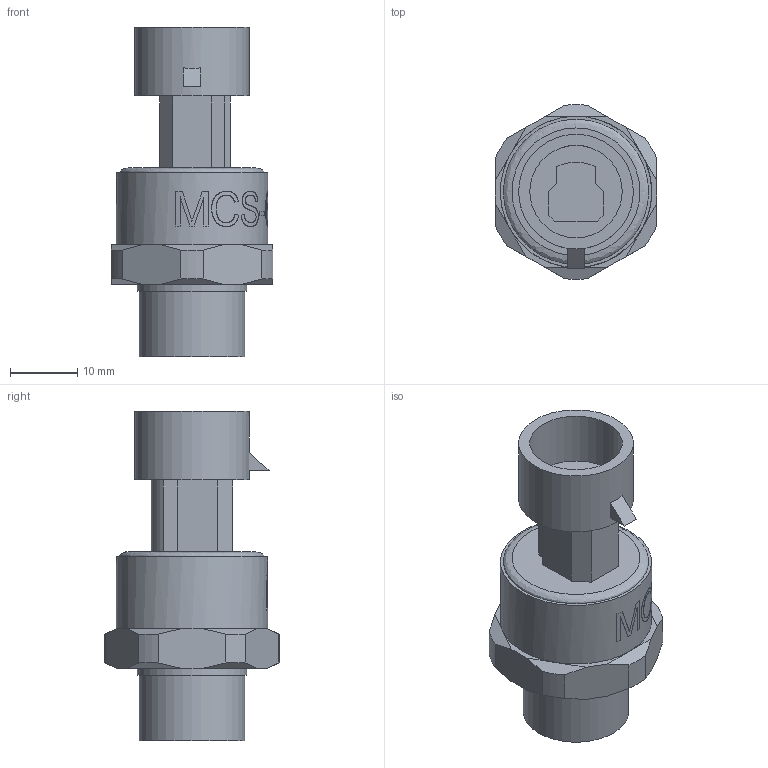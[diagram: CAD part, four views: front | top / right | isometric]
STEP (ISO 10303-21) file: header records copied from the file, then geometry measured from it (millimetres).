
FILE_DESCRIPTION(/* description */ (''),/* implementation_level */ '2;1');
FILE_NAME(/* name */ 'R:\Temp\J. Narvaez\IAN DRAWINGS\002 - Sensors\013 - MCS Pressure Transducers\MCS-667B.stp',/* time_stamp */ '2022-11-14T09:55:36-05:00',/* author */ ('mjeter'),/* organization */ ('unknown'),/* preprocessor_version */ 'ST-DEVELOPER v19',/* originating_system */ 'Autodesk Inventor 2023',/* authorisation */ '');
FILE_SCHEMA (('AUTOMOTIVE_DESIGN { 1 0 10303 214 3 1 1 }'));
Length unit declared in the file: inch
Products named in the file (1): MCS-667B
Bounding box: 24 x 25.92 x 48.83 mm (x, y, z)
Volume: 10494.1 mm3; surface area: 4744.3 mm2
Topology: 1 solids, 1 shells, 1206 faces, 3540 edges, 2358 vertices
Faces by surface type: plane 1168, cylinder 34, bspline 3, cone 1
Full cylindrical faces by diameter (mm): 10.795 x7, 13.716 x1, 15.646 x1, 16.307 x1, 17.018 x1, 22.437 x1
Entity records: 44857 total; most frequent: CARTESIAN_POINT 10804, DIRECTION 7888, ORIENTED_EDGE 7080, EDGE_CURVE 3540, AXIS2_PLACEMENT_3D 3166, VERTEX_POINT 2358, ELLIPSE 1792, LINE 1556
